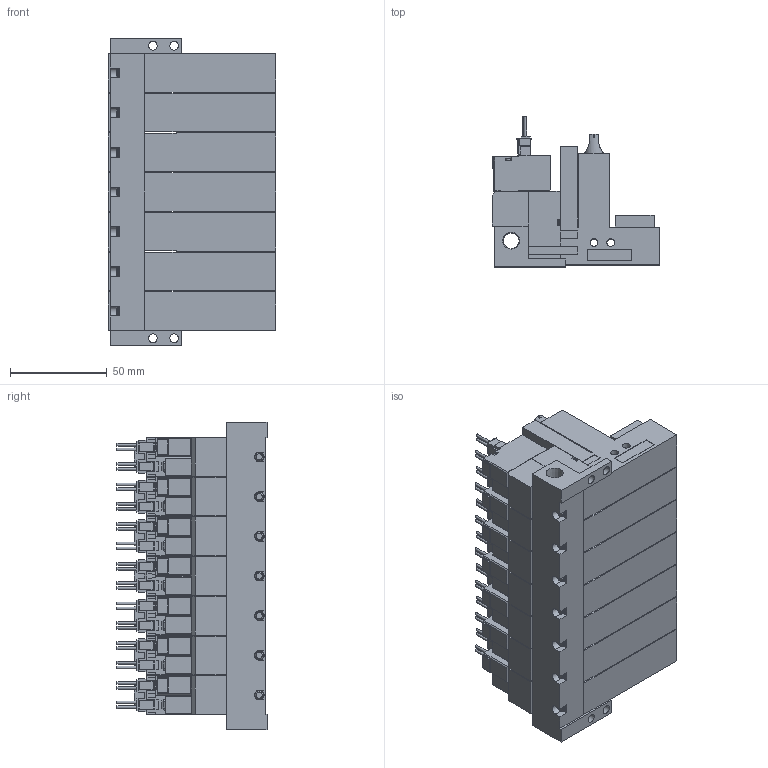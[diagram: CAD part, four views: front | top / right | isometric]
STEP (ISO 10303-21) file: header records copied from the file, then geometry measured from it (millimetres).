
FILE_DESCRIPTION(('STEP AP203'),'1');
FILE_NAME('ZL5ALR707.stp','2025-02-25T01:56:52',(' '),(' '),'Spatial InterOp 3D',' ',' ');
FILE_SCHEMA(('CONFIG_CONTROL_DESIGN'));
Length unit declared in the file: millimetre
Products named in the file (5): BMC22M※※※※ZL5ALR707; Solenoid valve A; Pressure sensor ZL; Unit L; Base MR70R
Assembly tree (22 placements, depth 2):
  BMC22M※※※※ZL5ALR707
    Solenoid valve A  x7
    Pressure sensor ZL  x7
    Unit L  x7
    Base MR70R
Bounding box: 86.6 x 77.45 x 159 mm (x, y, z)
Volume: 541826.6 mm3; surface area: 153292.2 mm2
Topology: 22 solids, 22 shells, 2443 faces, 6632 edges, 4366 vertices
Faces by surface type: plane 2100, cylinder 271, cone 51, torus 21
Full cylindrical faces by diameter (mm): 1.4 x28, 2.5 x7, 3 x28, 3.5 x28, 3.6 x7, 4 x14, 4.134 x7, 4.5 x4, 5.2 x7, 6 x7, 6.6 x7, 8.279 x1
Entity records: 14422 total; most frequent: CARTESIAN_POINT 2789, DIRECTION 2297, ORIENTED_EDGE 2222, EDGE_CURVE 1111, LINE 887, VECTOR 887, VERTEX_POINT 782, AXIS2_PLACEMENT_3D 705
